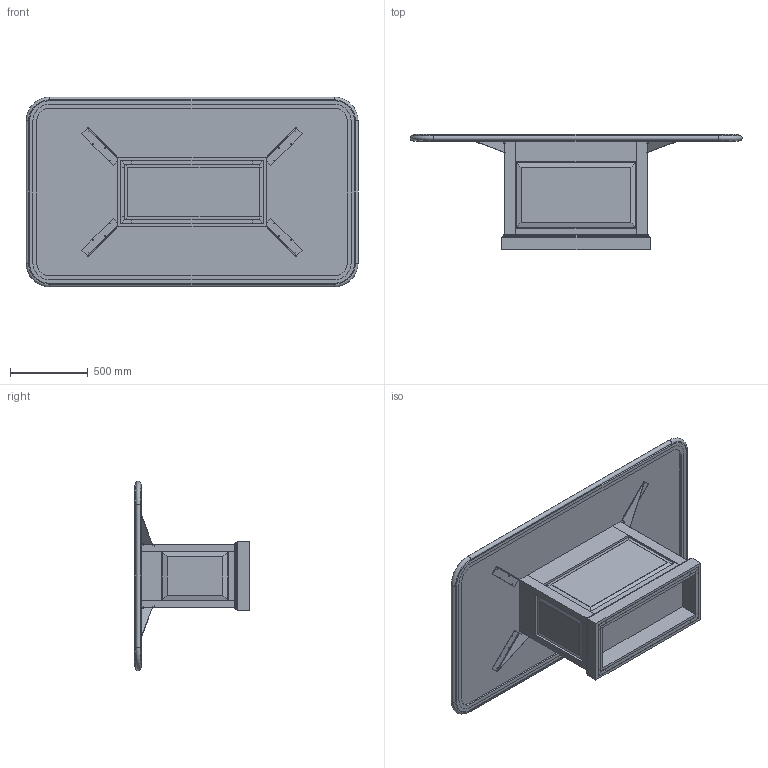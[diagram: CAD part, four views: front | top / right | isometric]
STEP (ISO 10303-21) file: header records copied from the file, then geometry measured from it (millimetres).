
FILE_DESCRIPTION(/* description */ ('','CAx-IF Rec.Pracs.---Representation and Presentation of Product Manufacturing Information (PMI)---4.0---2014-10-13'),/* implementation_level */ '2;1');
FILE_NAME(/* name */ 'TABLE_CAMBRIDGE 2.stp',/* time_stamp */ '2024-12-07T17:23:40-05:00',/* author */ ('mbowman'),/* organization */ (''),/* preprocessor_version */ 'ST-DEVELOPER v19.2',/* originating_system */ 'Autodesk Inventor 2023',/* authorisation */ '');
FILE_SCHEMA (('AP242_MANAGED_MODEL_BASED_3D_ENGINEERING_MIM_LF { 1 0 10303 442 1 1 4 }'));
Products named in the file (59): CAMBRIDGE^TABLE 2_4884 Rect-ASSEMBLY; CAMBRIDGE^TABLE 2_4884 Rect-TOP; CAMBRIDGE^TABLE 2_4884 Rect-TOP SOLID; CAMBRIDGE^TABLE 2_4884 Rect-TOP BLOCKING; CAMBRIDGE^TABLE 2_4884 Rect-CORNER STILE 1; CAMBRIDGE^TABLE 2_4884 Rect-CORNER STILE 2; CAMBRIDGE^TABLE 2_4884 Rect-CORNER STILE 3; CAMBRIDGE^TABLE 2_4884 Rect-CORNER STILE 4; CAMBRIDGE^TABLE 2_4884 Rect-CORNER STILE 5; CAMBRIDGE^TABLE 2_4884 Rect-CORNER STILE 6; CAMBRIDGE^TABLE 2_4884 Rect-CORNER STILE 7; CAMBRIDGE^TABLE 2_4884 Rect-CORNER STILE 8; CAMBRIDGE^TABLE 2_4884 Rect-TOP STILE 1; CAMBRIDGE^TABLE 2_4884 Rect-TOP STILE 2; CAMBRIDGE^TABLE 2_4884 Rect-TOP STILE 3; CAMBRIDGE^TABLE 2_4884 Rect-TOP STILE 4; CAMBRIDGE^TABLE 2_4884 Rect-BOTTOM STILE 1; CAMBRIDGE^TABLE 2_4884 Rect-BOTTOM STILE 2; CAMBRIDGE^TABLE 2_4884 Rect-BOTTOM STILE 3; CAMBRIDGE^TABLE 2_4884 Rect-BOTTOM STILE 4; CAMBRIDGE^TABLE 2_4884 Rect-INSIDE END PANEL; CAMBRIDGE^TABLE 2_4884 Rect-INSIDE SIDE PANEL 1; CAMBRIDGE^TABLE 2_4884 Rect-INSIDE SIDE PANEL 2; CAMBRIDGE^TABLE 2_4884 Rect-BASE TOP; CAMBRIDGE^TABLE 2_4884 Rect-BASE BOTTOM; CAMBRIDGE^TABLE 2_4884 Rect-OUT SIDE PANEL 1; CAMBRIDGE^TABLE 2_4884 Rect-OUT SIDE PANEL 2; CAMBRIDGE^TABLE 2_4884 Rect-OUT END PANEL; CAMBRIDGE^TABLE 2_4884 Rect-BASE SOLID; CAMBRIDGE^TABLE 2_4884 Rect-BASE DOOR; ECA INTERACT+ UT; ECA INTERACT+ UT_1; 8965-6403_8965-6408 no wires; 025-0043_025-0043; _ASSEM_HINGE; _ASSEM_HINGE_1; _SUPPORT; _TIGE_3; _ARM; _TIGE_2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
Assembly tree (88 placements, depth 5):
  CAMBRIDGE^TABLE 2_4884 Rect-ASSEMBLY
    CAMBRIDGE^TABLE 2_4884 Rect-TOP
    CAMBRIDGE^TABLE 2_4884 Rect-TOP SOLID
    CAMBRIDGE^TABLE 2_4884 Rect-TOP BLOCKING
    CAMBRIDGE^TABLE 2_4884 Rect-CORNER STILE 1
    CAMBRIDGE^TABLE 2_4884 Rect-CORNER STILE 2
    CAMBRIDGE^TABLE 2_4884 Rect-CORNER STILE 3
    CAMBRIDGE^TABLE 2_4884 Rect-CORNER STILE 4
    CAMBRIDGE^TABLE 2_4884 Rect-CORNER STILE 5
    CAMBRIDGE^TABLE 2_4884 Rect-CORNER STILE 6
    CAMBRIDGE^TABLE 2_4884 Rect-CORNER STILE 7
    CAMBRIDGE^TABLE 2_4884 Rect-CORNER STILE 8
    CAMBRIDGE^TABLE 2_4884 Rect-TOP STILE 1
    CAMBRIDGE^TABLE 2_4884 Rect-TOP STILE 2
    CAMBRIDGE^TABLE 2_4884 Rect-TOP STILE 3
    CAMBRIDGE^TABLE 2_4884 Rect-TOP STILE 4
    CAMBRIDGE^TABLE 2_4884 Rect-BOTTOM STILE 1
    CAMBRIDGE^TABLE 2_4884 Rect-BOTTOM STILE 2
    CAMBRIDGE^TABLE 2_4884 Rect-BOTTOM STILE 3
    CAMBRIDGE^TABLE 2_4884 Rect-BOTTOM STILE 4
    CAMBRIDGE^TABLE 2_4884 Rect-INSIDE END PANEL
    CAMBRIDGE^TABLE 2_4884 Rect-INSIDE SIDE PANEL 1
    CAMBRIDGE^TABLE 2_4884 Rect-INSIDE SIDE PANEL 2
    CAMBRIDGE^TABLE 2_4884 Rect-BASE TOP
    CAMBRIDGE^TABLE 2_4884 Rect-BASE BOTTOM
    CAMBRIDGE^TABLE 2_4884 Rect-OUT SIDE PANEL 1
    CAMBRIDGE^TABLE 2_4884 Rect-OUT SIDE PANEL 2
    CAMBRIDGE^TABLE 2_4884 Rect-OUT END PANEL
    CAMBRIDGE^TABLE 2_4884 Rect-BASE SOLID
    CAMBRIDGE^TABLE 2_4884 Rect-BASE DOOR
    ECA INTERACT+ UT
      ECA INTERACT+ UT_1
      8965-6403_8965-6408 no wires  x5
        025-0043_025-0043
    _ASSEM_HINGE
      _SUPPORT  x2
      _TIGE_3  x2
      _ARM  x4
      _TIGE_1  x2
      _TIGE_2
    _ASSEM_HINGE_1
      _SUPPORT  x2
      _TIGE_3  x2
      _ARM  x4
      _TIGE_1  x2
      _TIGE_2
    CAMBRIDGE^TABLE 2_4884 Rect-POWER LID
    BLUM 75T1750 INSERT HINGE COMPLETE
      Base Plate 175H7100
        Base PLate 1
        Base PLate 2
        Arm Inner
          Arm inner_1
          Arm inner pin  x3
          Clip new
      R30438 - HINGE 107DEG SPRUNG INSET BLUM 75T1780
        R30438 PART1
        Unsprung 1
        Unsprung 3
        Unsprung 4
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Bounding box: 2133.56 x 742.95 x 1219.16 mm (x, y, z)
Volume: 170372980 mm3; surface area: 16150861.4 mm2
Topology: 87 solids, 87 shells, 4077 faces, 10863 edges, 6972 vertices
Faces by surface type: plane 2214, cylinder 1466, torus 218, bspline 76, sphere 52, cone 51
Full cylindrical faces by diameter (mm): 1 x42, 1.1 x4, 2 x32, 2.5 x18, 3 x16, 3.242 x4, 4.5 x6, 4.6 x4, 4.762 x36, 7 x2, 8 x3, 8.007 x1, 9.525 x1, 34.9 x2
Entity records: 63955 total; most frequent: CARTESIAN_POINT 15074, DIRECTION 10100, ORIENTED_EDGE 8706, EDGE_CURVE 4353, AXIS2_PLACEMENT_3D 3562, LINE 2976, VECTOR 2976, VERTEX_POINT 2789
